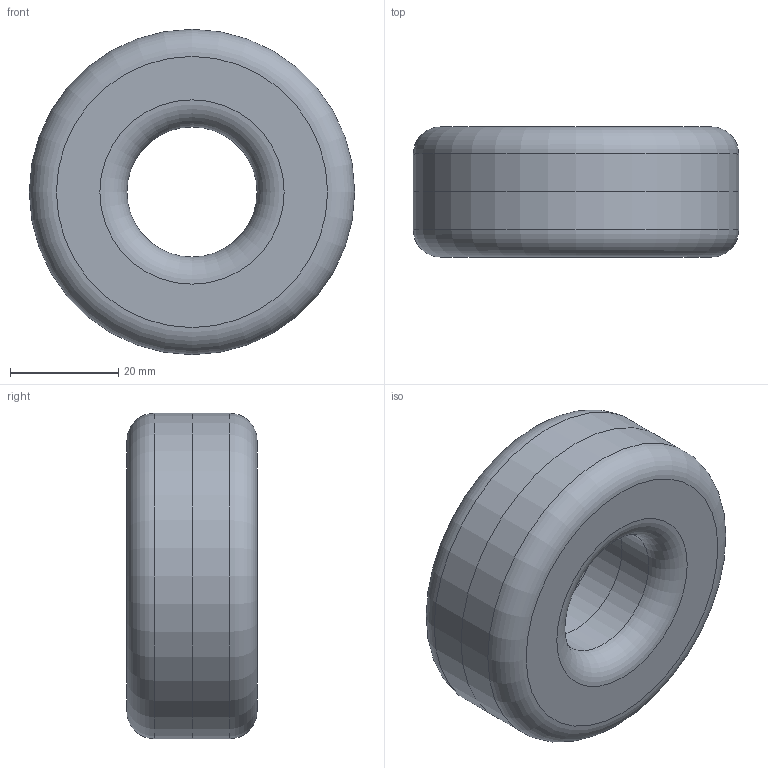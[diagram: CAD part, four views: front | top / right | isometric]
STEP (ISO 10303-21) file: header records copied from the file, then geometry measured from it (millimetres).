
FILE_DESCRIPTION(('Open CASCADE Model'),'2;1');
FILE_NAME('Open CASCADE Shape Model','2026-09-16T16:54:27',('Author'),( 'Open CASCADE'),'Open CASCADE STEP processor 7.8','Open CASCADE 7.8' ,'Unknown');
FILE_SCHEMA(('AUTOMOTIVE_DESIGN { 1 0 10303 214 1 1 1 1 }'));
Length unit declared in the file: millimetre
Products named in the file (1): Open CASCADE STEP translator 7.8 8
Bounding box: 60 x 24 x 60 mm (x, y, z)
Volume: 54169.5 mm3; surface area: 9950.9 mm2
Topology: 1 solids, 1 shells, 10 faces, 18 edges, 10 vertices
Faces by surface type: cylinder 4, torus 4, plane 2
Full cylindrical faces by diameter (mm): 24 x2, 60 x2
Entity records: 486 total; most frequent: CARTESIAN_POINT 85, DIRECTION 80, ORIENTED_EDGE 36, PCURVE 36, DEFINITIONAL_REPRESENTATION 36, LINE 26, VECTOR 26, AXIS2_PLACEMENT_3D 25
